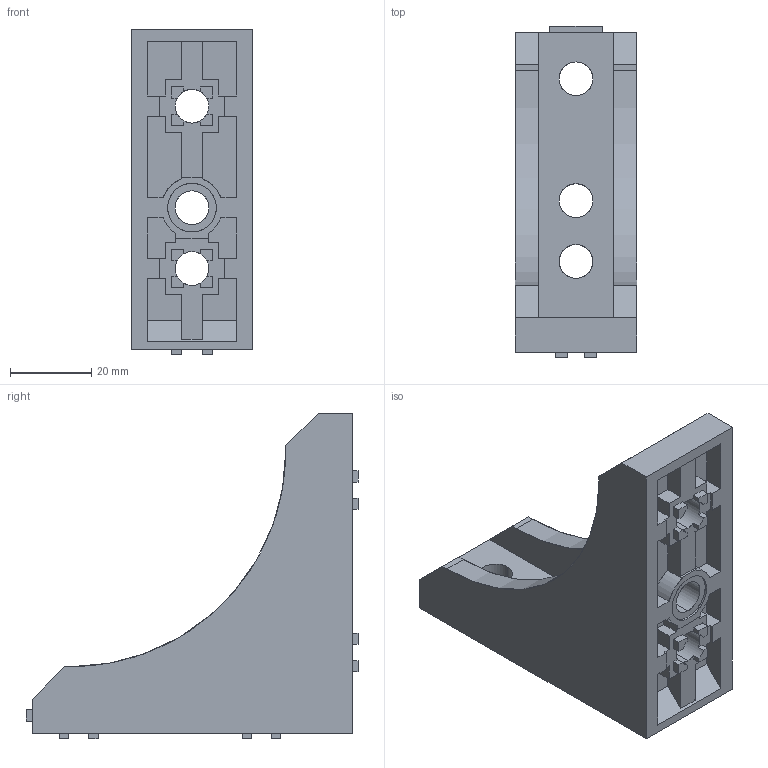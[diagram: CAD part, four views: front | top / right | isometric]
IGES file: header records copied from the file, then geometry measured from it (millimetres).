
Start section: SolidWorks IGES file using analytic representation for surfaces
Global section: file name: C:\Documents and Settings\TonookaT\デスクトップ\2008WEBCADﾃﾞｰﾀ\SFJ-025.IGS; native system: SolidWorks 2006 by SolidWorks Corporation; preprocessor: SolidWorks 2006 by SolidWorks Corporation; author: TonookaT; date: 080826.114621; units: millimetre
Bounding box: 30 x 81.8 x 80.3 mm (x, y, z)
Surface area: 22248.9 mm2 (no closed solid volume)
Topology: 0 solids, 0 shells, 251 faces, 2016 edges, 2016 vertices
Faces by surface type: bspline 225, revolution 26
